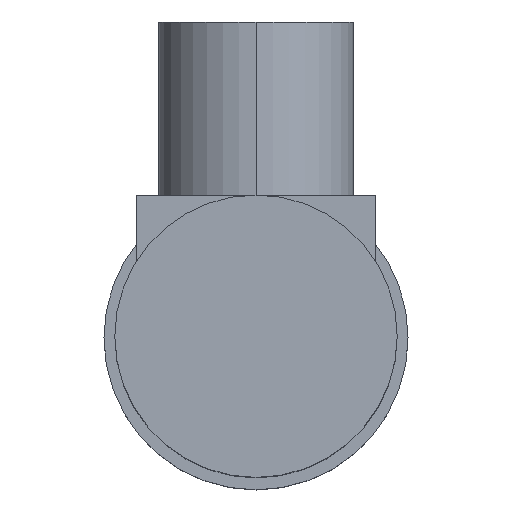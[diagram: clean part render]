
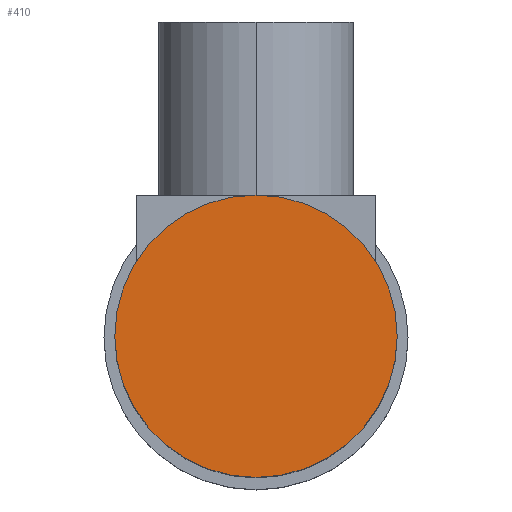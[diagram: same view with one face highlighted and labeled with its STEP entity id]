
A CAD part, top view. The second image highlights one B-rep face of the part: STEP entity #410.
In plain terms, the highlighted planar face has unit normal (0, 0, 1).
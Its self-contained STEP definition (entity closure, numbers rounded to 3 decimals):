
#69 = DIRECTION ( 'NONE',  ( -1., 0., 0. ) ) ;
#81 = CIRCLE ( 'NONE', #300, 13. ) ;
#107 = CIRCLE ( 'NONE', #478, 13. ) ;
#129 = PLANE ( 'NONE',  #627 ) ;
#132 = DIRECTION ( 'NONE',  ( 0., 0., -1. ) ) ;
#137 = VERTEX_POINT ( 'NONE', #339 ) ;
#300 = AXIS2_PLACEMENT_3D ( 'NONE', #341, #477, #69 ) ;
#337 = DIRECTION ( 'NONE',  ( 0., -1., 0. ) ) ;
#339 = CARTESIAN_POINT ( 'NONE',  ( -13., 0., 0. ) ) ;
#341 = CARTESIAN_POINT ( 'NONE',  ( 0., 0., 0. ) ) ;
#363 = EDGE_CURVE ( 'NONE', #754, #137, #81, .T. ) ;
#410 = ADVANCED_FACE ( 'NONE', ( #826 ), #129, .F. ) ;
#416 = EDGE_CURVE ( 'NONE', #137, #754, #107, .T. ) ;
#419 = DIRECTION ( 'NONE',  ( 0., 0., -1. ) ) ;
#477 = DIRECTION ( 'NONE',  ( 0., 0., -1. ) ) ;
#478 = AXIS2_PLACEMENT_3D ( 'NONE', #629, #132, #635 ) ;
#486 = CARTESIAN_POINT ( 'NONE',  ( 13.537, 13.52, 0. ) ) ;
#627 = AXIS2_PLACEMENT_3D ( 'NONE', #486, #419, #337 ) ;
#629 = CARTESIAN_POINT ( 'NONE',  ( 0., 0., 0. ) ) ;
#635 = DIRECTION ( 'NONE',  ( -1., 0., 0. ) ) ;
#661 = EDGE_LOOP ( 'NONE', ( #692, #900 ) ) ;
#692 = ORIENTED_EDGE ( 'NONE', *, *, #416, .F. ) ;
#754 = VERTEX_POINT ( 'NONE', #802 ) ;
#802 = CARTESIAN_POINT ( 'NONE',  ( 13., 0., 0. ) ) ;
#826 = FACE_OUTER_BOUND ( 'NONE', #661, .T. ) ;
#900 = ORIENTED_EDGE ( 'NONE', *, *, #363, .F. ) ;
